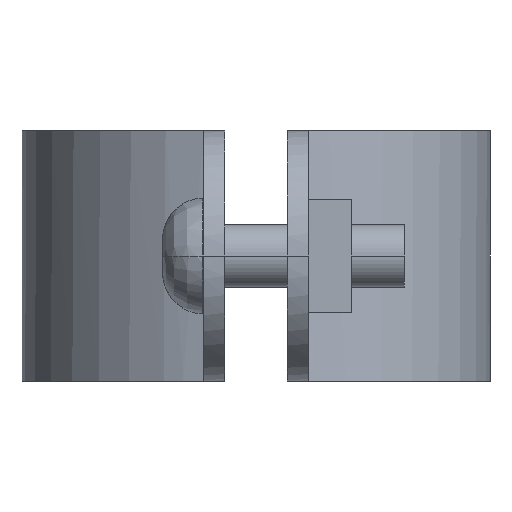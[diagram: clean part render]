
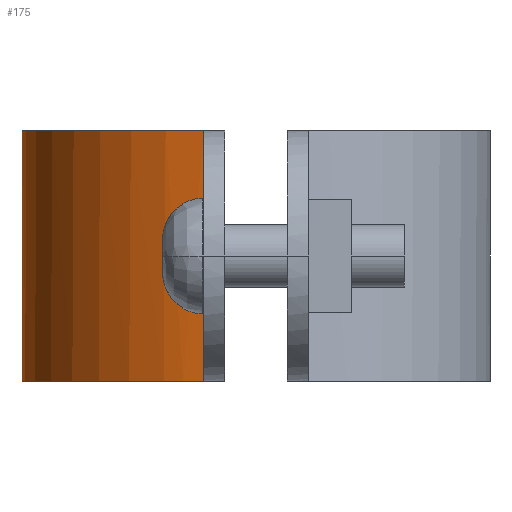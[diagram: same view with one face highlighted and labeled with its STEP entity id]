
A CAD part, left-side view. The second image highlights one B-rep face of the part: STEP entity #175.
In plain terms, the highlighted free-form (B-spline) face has degree [3, 1] with [4, 2] control points.
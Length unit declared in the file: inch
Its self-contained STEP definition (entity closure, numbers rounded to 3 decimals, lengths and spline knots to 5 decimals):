
#175=ADVANCED_FACE('',(#396),#397,.T.);
#396=FACE_OUTER_BOUND('',#711,.T.);
#397=B_SPLINE_SURFACE_WITH_KNOTS('',3,1,((#712,#713),(#714,#715),(#716,#717),(#718,#719)),.UNSPECIFIED.,.F.,.F.,.F.,(4,4),(2,2),(-1.0,-0.0),(0.0,1.25),.UNSPECIFIED.);
#711=EDGE_LOOP('',(#1492,#1493,#1494,#1495));
#712=CARTESIAN_POINT('',(1.87377,2.511,0.0));
#713=CARTESIAN_POINT('',(1.87377,2.511,1.25));
#714=CARTESIAN_POINT('',(1.33015,2.511,0.0));
#715=CARTESIAN_POINT('',(1.33015,2.511,1.25));
#716=CARTESIAN_POINT('',(0.85863,2.13546,0.0));
#717=CARTESIAN_POINT('',(0.85863,2.13546,1.25));
#718=CARTESIAN_POINT('',(0.73698,1.60564,0.0));
#719=CARTESIAN_POINT('',(0.73698,1.60564,1.25));
#1492=ORIENTED_EDGE('',*,*,#2086,.T.);
#1493=ORIENTED_EDGE('',*,*,#2045,.F.);
#1494=ORIENTED_EDGE('',*,*,#2087,.T.);
#1495=ORIENTED_EDGE('',*,*,#2088,.T.);
#2045=EDGE_CURVE('',#2340,#2342,#2343,.T.);
#2086=EDGE_CURVE('',#2411,#2342,#2412,.T.);
#2087=EDGE_CURVE('',#2340,#2413,#2414,.T.);
#2088=EDGE_CURVE('',#2413,#2411,#2415,.T.);
#2340=VERTEX_POINT('',#2768);
#2342=VERTEX_POINT('',#2771);
#2343=LINE('',#2772,#2773);
#2411=VERTEX_POINT('',#2878);
#2412=B_SPLINE_CURVE_WITH_KNOTS('',3,(#2879,#2880,#2881,#2882),.UNSPECIFIED.,.F.,.F.,(4,4),(0.0,1.0),.UNSPECIFIED.);
#2413=VERTEX_POINT('',#2883);
#2414=B_SPLINE_CURVE_WITH_KNOTS('',3,(#2884,#2885,#2886,#2887),.UNSPECIFIED.,.F.,.F.,(4,4),(-1.0,-0.0),.UNSPECIFIED.);
#2415=LINE('',#2888,#2889);
#2768=CARTESIAN_POINT('',(1.87377,2.511,0.00011));
#2771=CARTESIAN_POINT('',(1.87377,2.511,1.24989));
#2772=CARTESIAN_POINT('',(1.87377,2.511,0.0));
#2773=VECTOR('',#3527,1.0);
#2878=CARTESIAN_POINT('',(0.73698,1.60564,1.24989));
#2879=CARTESIAN_POINT('',(0.73698,1.60564,1.24989));
#2880=CARTESIAN_POINT('',(0.85863,2.13546,1.24989));
#2881=CARTESIAN_POINT('',(1.33015,2.511,1.24989));
#2882=CARTESIAN_POINT('',(1.87377,2.511,1.24989));
#2883=CARTESIAN_POINT('',(0.73698,1.60564,0.00011));
#2884=CARTESIAN_POINT('',(1.87377,2.511,0.00011));
#2885=CARTESIAN_POINT('',(1.33015,2.511,0.00011));
#2886=CARTESIAN_POINT('',(0.85863,2.13546,0.00011));
#2887=CARTESIAN_POINT('',(0.73698,1.60564,0.00011));
#2888=CARTESIAN_POINT('',(0.73698,1.60564,0.0));
#2889=VECTOR('',#3559,1.0);
#3527=DIRECTION('',(0.0,0.0,1.0));
#3559=DIRECTION('',(0.0,0.0,1.0));
